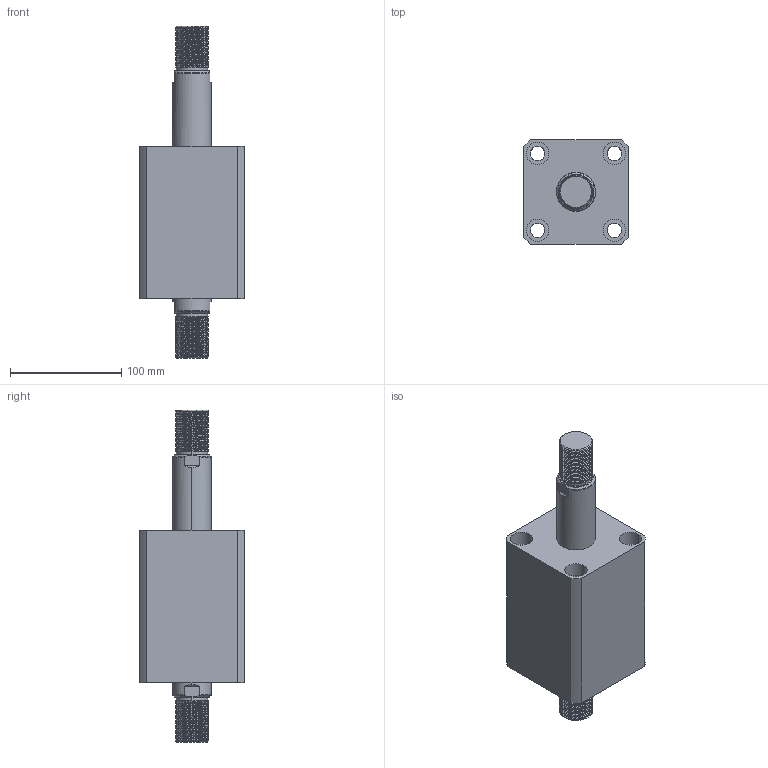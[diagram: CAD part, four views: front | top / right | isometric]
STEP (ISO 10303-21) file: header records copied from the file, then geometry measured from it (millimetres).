
FILE_DESCRIPTION (( 'STEP AP214' ), '1' );
FILE_NAME ('chtb-sw63x55w_asm.STEP', '2018-05-19T03:20:54', ( 'Windows' ), ( 'Microsoft' ), 'SwSTEP 2.0', 'SolidWorks 2015', '' );
FILE_SCHEMA (( 'AUTOMOTIVE_DESIGN' ));
Length unit declared in the file: millimetre
Products named in the file (4): CHTB-SW63X55WHSG; CHTB-SW63X55NBT; CHTB-63QG; chtb-sw63x55w_asm
Assembly tree (3 placements, depth 2):
  chtb-sw63x55w_asm
    CHTB-63QG
    CHTB-SW63X55NBT
    CHTB-SW63X55WHSG
Bounding box: 94 x 94 x 298 mm (x, y, z)
Volume: 1114495.5 mm3; surface area: 180490 mm2
Topology: 3 solids, 3 shells, 296 faces, 841 edges, 569 vertices
Faces by surface type: cylinder 206, plane 46, bspline 16, cone 16, torus 12
Entity records: 27380 total; most frequent: CARTESIAN_POINT 20442, ORIENTED_EDGE 1674, DIRECTION 1166, EDGE_CURVE 837, VERTEX_POINT 569, AXIS2_PLACEMENT_3D 453, EDGE_LOOP 334, FACE_OUTER_BOUND 296
